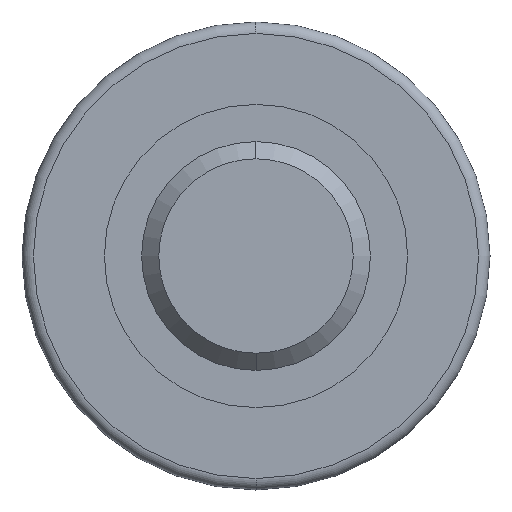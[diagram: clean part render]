
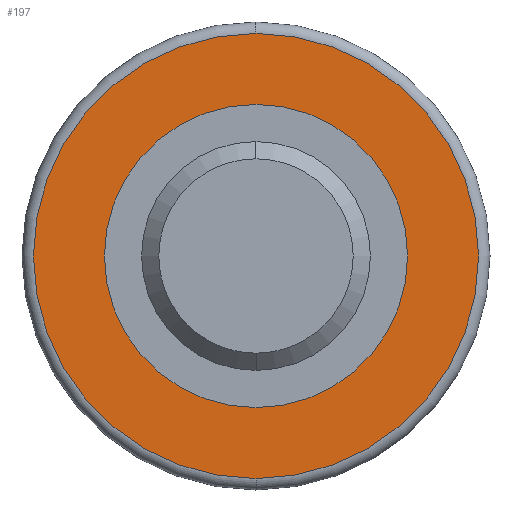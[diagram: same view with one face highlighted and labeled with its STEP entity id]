
A CAD part, left-side view. The second image highlights one B-rep face of the part: STEP entity #197.
In plain terms, the highlighted planar face has unit normal (-1, 0, 0).
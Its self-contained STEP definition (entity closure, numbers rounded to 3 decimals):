
#14 = DIRECTION ( 'NONE',  ( 0., 0., -1. ) ) ;
#31 = ORIENTED_EDGE ( 'NONE', *, *, #418, .F. ) ;
#46 = CIRCLE ( 'NONE', #278, 26.5 ) ;
#58 = CARTESIAN_POINT ( 'NONE',  ( 0., 0., 0. ) ) ;
#60 = EDGE_LOOP ( 'NONE', ( #264, #444 ) ) ;
#68 = CARTESIAN_POINT ( 'NONE',  ( 0., 0., -38.9 ) ) ;
#97 = CIRCLE ( 'NONE', #202, 38.9 ) ;
#102 = EDGE_CURVE ( 'NONE', #435, #185, #380, .T. ) ;
#132 = CARTESIAN_POINT ( 'NONE',  ( 0., 0., 38.9 ) ) ;
#139 = VERTEX_POINT ( 'NONE', #296 ) ;
#142 = CARTESIAN_POINT ( 'NONE',  ( 0., 0., 0. ) ) ;
#146 = AXIS2_PLACEMENT_3D ( 'NONE', #252, #210, #437 ) ;
#185 = VERTEX_POINT ( 'NONE', #132 ) ;
#188 = DIRECTION ( 'NONE',  ( -1., 0., 0. ) ) ;
#194 = DIRECTION ( 'NONE',  ( 0., 0., 1. ) ) ;
#197 = ADVANCED_FACE ( 'NONE', ( #449, #247 ), #366, .F. ) ;
#202 = AXIS2_PLACEMENT_3D ( 'NONE', #58, #286, #14 ) ;
#210 = DIRECTION ( 'NONE',  ( 1., 0., 0. ) ) ;
#211 = EDGE_LOOP ( 'NONE', ( #31, #452 ) ) ;
#224 = DIRECTION ( 'NONE',  ( -1., 0., 0. ) ) ;
#231 = DIRECTION ( 'NONE',  ( -1., 0., 0. ) ) ;
#233 = EDGE_CURVE ( 'NONE', #185, #435, #97, .T. ) ;
#247 = FACE_BOUND ( 'NONE', #211, .T. ) ;
#252 = CARTESIAN_POINT ( 'NONE',  ( 0., 0., 0. ) ) ;
#254 = CIRCLE ( 'NONE', #332, 26.5 ) ;
#264 = ORIENTED_EDGE ( 'NONE', *, *, #102, .T. ) ;
#278 = AXIS2_PLACEMENT_3D ( 'NONE', #419, #231, #194 ) ;
#286 = DIRECTION ( 'NONE',  ( -1., 0., 0. ) ) ;
#289 = AXIS2_PLACEMENT_3D ( 'NONE', #142, #188, #340 ) ;
#296 = CARTESIAN_POINT ( 'NONE',  ( 0., 0., -26.5 ) ) ;
#332 = AXIS2_PLACEMENT_3D ( 'NONE', #413, #224, #450 ) ;
#340 = DIRECTION ( 'NONE',  ( 0., 0., -1. ) ) ;
#343 = VERTEX_POINT ( 'NONE', #455 ) ;
#366 = PLANE ( 'NONE',  #146 ) ;
#380 = CIRCLE ( 'NONE', #289, 38.9 ) ;
#400 = EDGE_CURVE ( 'NONE', #343, #139, #46, .T. ) ;
#413 = CARTESIAN_POINT ( 'NONE',  ( 0., 0., 0. ) ) ;
#418 = EDGE_CURVE ( 'NONE', #139, #343, #254, .T. ) ;
#419 = CARTESIAN_POINT ( 'NONE',  ( 0., 0., 0. ) ) ;
#435 = VERTEX_POINT ( 'NONE', #68 ) ;
#437 = DIRECTION ( 'NONE',  ( 0., 0., -1. ) ) ;
#444 = ORIENTED_EDGE ( 'NONE', *, *, #233, .T. ) ;
#449 = FACE_OUTER_BOUND ( 'NONE', #60, .T. ) ;
#450 = DIRECTION ( 'NONE',  ( 0., 0., 1. ) ) ;
#452 = ORIENTED_EDGE ( 'NONE', *, *, #400, .F. ) ;
#455 = CARTESIAN_POINT ( 'NONE',  ( 0., 0., 26.5 ) ) ;
